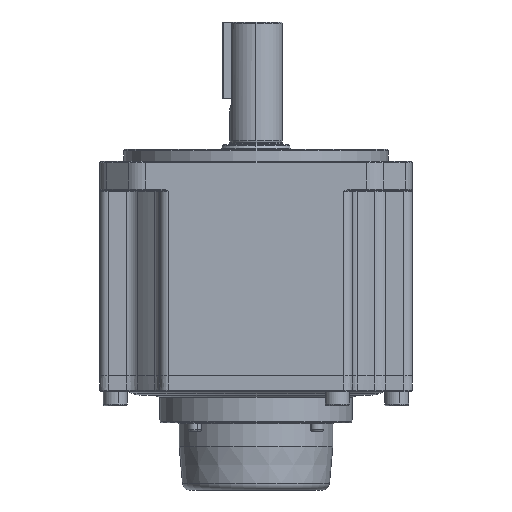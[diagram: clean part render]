
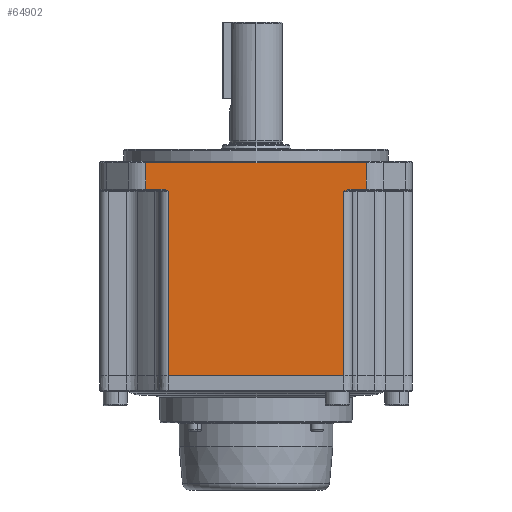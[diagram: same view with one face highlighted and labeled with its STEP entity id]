
A CAD part, front view. The second image highlights one B-rep face of the part: STEP entity #64902.
In plain terms, the highlighted planar face has unit normal (0, -1, 0).
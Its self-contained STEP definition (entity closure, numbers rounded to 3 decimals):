
#1223 = CARTESIAN_POINT ( 'NONE',  ( -39.084, -65., -16.5 ) ) ;
#3289 = CARTESIAN_POINT ( 'NONE',  ( -36.401, -65., -17.5 ) ) ;
#5712 = EDGE_CURVE ( 'NONE', #94672, #81490, #69419, .T. ) ;
#6955 = DIRECTION ( 'NONE',  ( 1., 0., 0. ) ) ;
#7515 = ORIENTED_EDGE ( 'NONE', *, *, #52385, .T. ) ;
#7658 = LINE ( 'NONE', #67362, #33409 ) ;
#7928 = LINE ( 'NONE', #52562, #47675 ) ;
#8134 = ORIENTED_EDGE ( 'NONE', *, *, #31767, .T. ) ;
#8254 = DIRECTION ( 'NONE',  ( -1., 0., 0. ) ) ;
#8744 = CARTESIAN_POINT ( 'NONE',  ( -45.858, -65., -5.5 ) ) ;
#10052 = VERTEX_POINT ( 'NONE', #66557 ) ;
#10400 = CARTESIAN_POINT ( 'NONE',  ( 50., -65., -94.1 ) ) ;
#10880 = DIRECTION ( 'NONE',  ( 0., 0., 1. ) ) ;
#11224 = ORIENTED_EDGE ( 'NONE', *, *, #5712, .T. ) ;
#12009 = EDGE_CURVE ( 'NONE', #31699, #48360, #67160, .T. ) ;
#12996 = LINE ( 'NONE', #14951, #55931 ) ;
#14446 = CARTESIAN_POINT ( 'NONE',  ( 50., -65., -312.548 ) ) ;
#14894 = VERTEX_POINT ( 'NONE', #3289 ) ;
#14904 = CARTESIAN_POINT ( 'NONE',  ( 38.133, -65., -16.656 ) ) ;
#14951 = CARTESIAN_POINT ( 'NONE',  ( -45.858, -65., -312.548 ) ) ;
#19155 = EDGE_CURVE ( 'NONE', #76340, #10052, #40950, .T. ) ;
#19734 = ORIENTED_EDGE ( 'NONE', *, *, #72845, .T. ) ;
#22484 = LINE ( 'NONE', #75570, #77386 ) ;
#22638 = CARTESIAN_POINT ( 'NONE',  ( -37.903, -65., -16.739 ) ) ;
#22707 = VECTOR ( 'NONE', #10880, 1000. ) ;
#27541 = FACE_OUTER_BOUND ( 'NONE', #54606, .T. ) ;
#30971 = LINE ( 'NONE', #64001, #22707 ) ;
#31061 = CARTESIAN_POINT ( 'NONE',  ( -45.858, -65., -16.5 ) ) ;
#31699 = VERTEX_POINT ( 'NONE', #58095 ) ;
#31767 = EDGE_CURVE ( 'NONE', #76454, #14894, #82838, .T. ) ;
#32204 = ORIENTED_EDGE ( 'NONE', *, *, #19155, .T. ) ;
#33409 = VECTOR ( 'NONE', #91844, 1000. ) ;
#35139 = ORIENTED_EDGE ( 'NONE', *, *, #12009, .T. ) ;
#35473 = CARTESIAN_POINT ( 'NONE',  ( -36.401, -65., -94.1 ) ) ;
#36623 = CARTESIAN_POINT ( 'NONE',  ( -37.239, -65., -17.023 ) ) ;
#38033 = ORIENTED_EDGE ( 'NONE', *, *, #96565, .F. ) ;
#40207 = ORIENTED_EDGE ( 'NONE', *, *, #80716, .T. ) ;
#40537 = DIRECTION ( 'NONE',  ( 1., 0., 0. ) ) ;
#40950 = LINE ( 'NONE', #10400, #97359 ) ;
#43516 = DIRECTION ( 'NONE',  ( 0., 0., -1. ) ) ;
#47675 = VECTOR ( 'NONE', #97642, 1000. ) ;
#48360 = VERTEX_POINT ( 'NONE', #66432 ) ;
#52035 = CARTESIAN_POINT ( 'NONE',  ( 36.819, -65., -17.262 ) ) ;
#52385 = EDGE_CURVE ( 'NONE', #48360, #95206, #95165, .T. ) ;
#52494 = CARTESIAN_POINT ( 'NONE',  ( 38.601, -65., -16.537 ) ) ;
#52562 = CARTESIAN_POINT ( 'NONE',  ( 36.401, -65., -128.7 ) ) ;
#53005 = DIRECTION ( 'NONE',  ( 0., -1., 0. ) ) ;
#53480 = CARTESIAN_POINT ( 'NONE',  ( 36.401, -65., -17.5 ) ) ;
#54606 = EDGE_LOOP ( 'NONE', ( #38033, #32204, #77376, #35139, #7515, #19734, #11224, #40207, #81134, #8134 ) ) ;
#54832 = CARTESIAN_POINT ( 'NONE',  ( -38.133, -65., -16.656 ) ) ;
#55931 = VECTOR ( 'NONE', #43516, 1000. ) ;
#58095 = CARTESIAN_POINT ( 'NONE',  ( 36.401, -65., -17.5 ) ) ;
#58130 = PLANE ( 'NONE',  #58147 ) ;
#58147 = AXIS2_PLACEMENT_3D ( 'NONE', #14446, #53005, #68561 ) ;
#60569 = CARTESIAN_POINT ( 'NONE',  ( 37.903, -65., -16.739 ) ) ;
#60603 = CARTESIAN_POINT ( 'NONE',  ( -39.084, -65., -16.5 ) ) ;
#61454 = VERTEX_POINT ( 'NONE', #31061 ) ;
#63555 = DIRECTION ( 'NONE',  ( 1., 0., 0. ) ) ;
#64001 = CARTESIAN_POINT ( 'NONE',  ( 45.858, -65., -312.548 ) ) ;
#64902 = ADVANCED_FACE ( 'NONE', ( #27541 ), #58130, .T. ) ;
#65552 = EDGE_CURVE ( 'NONE', #61454, #76454, #22484, .T. ) ;
#66432 = CARTESIAN_POINT ( 'NONE',  ( 39.084, -65., -16.5 ) ) ;
#66557 = CARTESIAN_POINT ( 'NONE',  ( 36.401, -65., -94.1 ) ) ;
#67160 = B_SPLINE_CURVE_WITH_KNOTS ( 'NONE', 3,
 ( #53480, #52035, #83548, #60569, #14904, #52494, #76014, #67568 ),
 .UNSPECIFIED., .F., .F.,
 ( 4, 2, 2, 4 ),
 ( 0., 0.001, 0.002, 0.003 ),
 .UNSPECIFIED. ) ;
#67257 = CARTESIAN_POINT ( 'NONE',  ( -36.82, -65., -17.262 ) ) ;
#67362 = CARTESIAN_POINT ( 'NONE',  ( -36.401, -65., -128.7 ) ) ;
#67568 = CARTESIAN_POINT ( 'NONE',  ( 39.084, -65., -16.5 ) ) ;
#68561 = DIRECTION ( 'NONE',  ( 1., 0., 0. ) ) ;
#69419 = LINE ( 'NONE', #8744, #86676 ) ;
#69528 = CARTESIAN_POINT ( 'NONE',  ( 45.858, -65., -16.5 ) ) ;
#70610 = CARTESIAN_POINT ( 'NONE',  ( 50., -65., -16.5 ) ) ;
#72845 = EDGE_CURVE ( 'NONE', #95206, #94672, #30971, .T. ) ;
#75570 = CARTESIAN_POINT ( 'NONE',  ( 50., -65., -16.5 ) ) ;
#76014 = CARTESIAN_POINT ( 'NONE',  ( 38.84, -65., -16.5 ) ) ;
#76340 = VERTEX_POINT ( 'NONE', #35473 ) ;
#76454 = VERTEX_POINT ( 'NONE', #60603 ) ;
#77376 = ORIENTED_EDGE ( 'NONE', *, *, #87483, .T. ) ;
#77386 = VECTOR ( 'NONE', #6955, 1000. ) ;
#80716 = EDGE_CURVE ( 'NONE', #81490, #61454, #12996, .T. ) ;
#81134 = ORIENTED_EDGE ( 'NONE', *, *, #65552, .T. ) ;
#81490 = VERTEX_POINT ( 'NONE', #90007 ) ;
#82838 = B_SPLINE_CURVE_WITH_KNOTS ( 'NONE', 3,
 ( #1223, #92897, #85400, #54832, #22638, #36623, #67257, #95468 ),
 .UNSPECIFIED., .F., .F.,
 ( 4, 2, 2, 4 ),
 ( 0., 0.001, 0.001, 0.003 ),
 .UNSPECIFIED. ) ;
#83548 = CARTESIAN_POINT ( 'NONE',  ( 37.239, -65., -17.023 ) ) ;
#85400 = CARTESIAN_POINT ( 'NONE',  ( -38.601, -65., -16.537 ) ) ;
#86676 = VECTOR ( 'NONE', #8254, 1000. ) ;
#87483 = EDGE_CURVE ( 'NONE', #10052, #31699, #7928, .T. ) ;
#89197 = CARTESIAN_POINT ( 'NONE',  ( 45.858, -65., -5.5 ) ) ;
#90007 = CARTESIAN_POINT ( 'NONE',  ( -45.858, -65., -5.5 ) ) ;
#91844 = DIRECTION ( 'NONE',  ( 0., 0., 1. ) ) ;
#92897 = CARTESIAN_POINT ( 'NONE',  ( -38.84, -65., -16.5 ) ) ;
#94672 = VERTEX_POINT ( 'NONE', #89197 ) ;
#95165 = LINE ( 'NONE', #70610, #98063 ) ;
#95206 = VERTEX_POINT ( 'NONE', #69528 ) ;
#95468 = CARTESIAN_POINT ( 'NONE',  ( -36.401, -65., -17.5 ) ) ;
#96565 = EDGE_CURVE ( 'NONE', #76340, #14894, #7658, .T. ) ;
#97359 = VECTOR ( 'NONE', #63555, 1000. ) ;
#97642 = DIRECTION ( 'NONE',  ( 0., 0., 1. ) ) ;
#98063 = VECTOR ( 'NONE', #40537, 1000. ) ;
